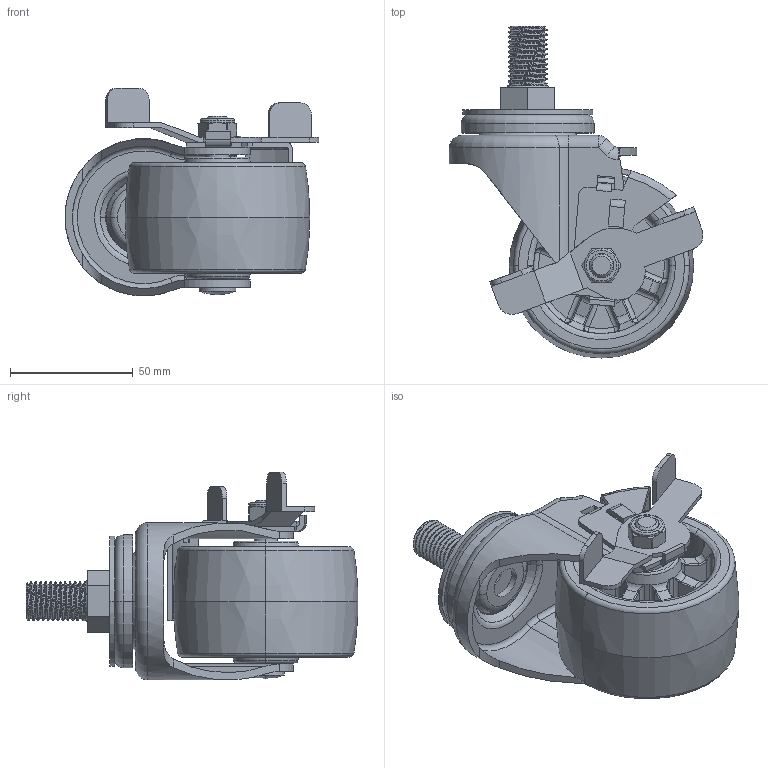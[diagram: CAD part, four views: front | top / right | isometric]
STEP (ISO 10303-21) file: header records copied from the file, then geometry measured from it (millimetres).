
FILE_DESCRIPTION((''),'2;1');
FILE_NAME('6243-03_ASM','2023-01-10T',('lenovo'),(''),'PRO/ENGINEER BY PARAMETRIC TECHNOLOGY CORPORATION, 2010280','PRO/ENGINEER BY PARAMETRIC TECHNOLOGY CORPORATION, 2010280','');
FILE_SCHEMA(('CONFIG_CONTROL_DESIGN'));
Length unit declared in the file: millimetre
Products named in the file (10): 623-11; 620-03; 620-08; 622-33; 623-903; 620-23M16X25; 623-15; T673-14; 570-34; 6243-03_ASM
Assembly tree (9 placements, depth 2):
  6243-03_ASM
    623-11
    620-03
    620-08
    622-33
    623-903
    620-23M16X25
    623-15
    T673-14
    570-34
Bounding box: 103.29 x 135 x 84.43 mm (x, y, z)
Volume: 206550.5 mm3; surface area: 76560 mm2
Topology: 9 solids, 9 shells, 958 faces, 2367 edges, 1367 vertices
Faces by surface type: cylinder 267, bspline 211, plane 187, torus 142, sphere 78, cone 73
Entity records: 39553 total; most frequent: CARTESIAN_POINT 18873, ORIENTED_EDGE 4586, DIRECTION 3941, EDGE_CURVE 2293, AXIS2_PLACEMENT_3D 1648, VERTEX_POINT 1367, EDGE_LOOP 996, FACE_OUTER_BOUND 958
